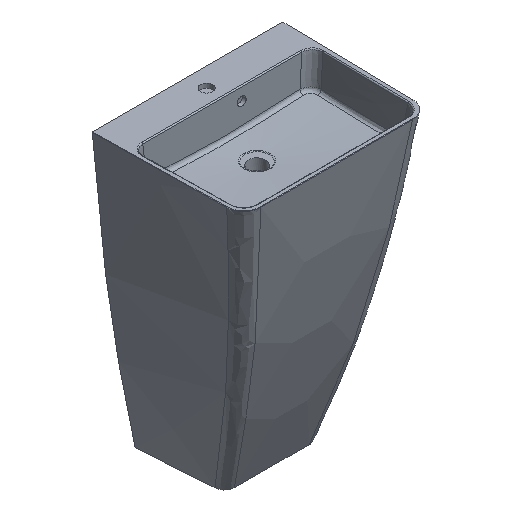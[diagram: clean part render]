
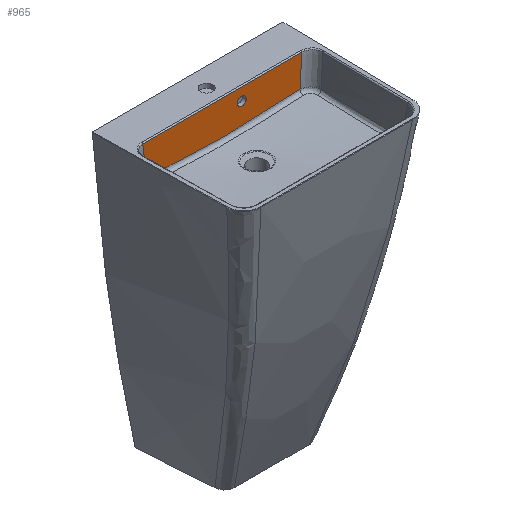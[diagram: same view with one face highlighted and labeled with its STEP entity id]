
A CAD part, isometric view. The second image highlights one B-rep face of the part: STEP entity #965.
In plain terms, the highlighted planar face has unit normal (0, -0.999, 0.035).
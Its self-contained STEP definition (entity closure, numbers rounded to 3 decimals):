
#15=FACE_BOUND('',#255,.T.);
#35=B_SPLINE_CURVE_WITH_KNOTS('',3,(#1633,#1634,#1635,#1636,#1637,#1638,
#1639,#1640,#1641,#1642,#1643,#1644,#1645,#1646,#1647,#1648,#1649,#1650,
#1651),.UNSPECIFIED.,.F.,.F.,(4,3,3,3,3,3,4),(0.,0.002,0.035,
0.099,0.229,0.488,1.),
 .UNSPECIFIED.);
#107=B_SPLINE_CURVE_WITH_KNOTS('',3,(#5554,#5555,#5556,#5557,#5558,#5559,
#5560,#5561,#5562,#5563,#5564,#5565,#5566,#5567,#5568,#5569,#5570,#5571,
#5572,#5573,#5574,#5575,#5576,#5577,#5578,#5579,#5580,#5581,#5582,#5583,
#5584,#5585,#5586,#5587,#5588,#5589,#5590),.UNSPECIFIED.,.F.,.F.,(4,3,3,
3,3,3,3,3,3,3,3,3,4),(0.,0.125,0.25,0.313,0.375,
0.438,0.5,0.563,0.625,0.688,0.75,0.875,
1.),.UNSPECIFIED.);
#108=B_SPLINE_CURVE_WITH_KNOTS('',3,(#5592,#5593,#5594,#5595,#5596,#5597,
#5598,#5599,#5600,#5601,#5602,#5603,#5604,#5605,#5606,#5607,#5608,#5609,
#5610),.UNSPECIFIED.,.F.,.F.,(4,3,3,3,3,3,4),(0.,0.512,0.771,
0.901,0.965,0.998,1.),.UNSPECIFIED.);
#164=PLANE('',#1050);
#195=FACE_OUTER_BOUND('',#254,.T.);
#254=EDGE_LOOP('',(#742,#743,#744,#745));
#255=EDGE_LOOP('',(#746,#747));
#328=LINE('',#5611,#340);
#340=VECTOR('',#1148,458.753);
#343=ELLIPSE('',#1017,12.508,12.5);
#344=ELLIPSE('',#1018,12.508,12.5);
#346=VERTEX_POINT('',#1185);
#347=VERTEX_POINT('',#1186);
#360=VERTEX_POINT('',#1327);
#364=VERTEX_POINT('',#1559);
#434=VERTEX_POINT('',#5553);
#435=VERTEX_POINT('',#5591);
#439=EDGE_CURVE('',#346,#347,#343,.T.);
#440=EDGE_CURVE('',#347,#346,#344,.T.);
#462=EDGE_CURVE('',#360,#364,#35,.T.);
#552=EDGE_CURVE('',#364,#434,#107,.T.);
#553=EDGE_CURVE('',#434,#435,#108,.T.);
#554=EDGE_CURVE('',#435,#360,#328,.T.);
#742=ORIENTED_EDGE('',*,*,#552,.T.);
#743=ORIENTED_EDGE('',*,*,#553,.T.);
#744=ORIENTED_EDGE('',*,*,#554,.T.);
#745=ORIENTED_EDGE('',*,*,#462,.T.);
#746=ORIENTED_EDGE('',*,*,#439,.T.);
#747=ORIENTED_EDGE('',*,*,#440,.T.);
#965=ADVANCED_FACE('',(#195,#15),#164,.T.);
#1017=AXIS2_PLACEMENT_3D('',#1187,#1071,#1072);
#1018=AXIS2_PLACEMENT_3D('',#1188,#1073,#1074);
#1050=AXIS2_PLACEMENT_3D('',#5552,#1146,#1147);
#1071=DIRECTION('center_axis',(0.,0.999,-0.035));
#1072=DIRECTION('ref_axis',(0.,-0.035,-0.999));
#1073=DIRECTION('center_axis',(0.,0.999,-0.035));
#1074=DIRECTION('ref_axis',(0.,-0.035,-0.999));
#1146=DIRECTION('center_axis',(0.,-0.999,0.035));
#1147=DIRECTION('ref_axis',(1.,0.,0.));
#1148=DIRECTION('',(-1.,0.,0.));
#1185=CARTESIAN_POINT('',(55.,-100.851,825.624));
#1186=CARTESIAN_POINT('',(42.5,-101.288,813.124));
#1187=CARTESIAN_POINT('Origin',(55.,-101.288,813.124));
#1188=CARTESIAN_POINT('Origin',(55.,-101.288,813.124));
#1327=CARTESIAN_POINT('',(-229.377,-100.101,847.105));
#1559=CARTESIAN_POINT('',(-220.825,-103.136,760.199));
#1633=CARTESIAN_POINT('Ctrl Pts',(-229.377,-100.101,847.105));
#1634=CARTESIAN_POINT('Ctrl Pts',(-229.371,-100.103,847.041));
#1635=CARTESIAN_POINT('Ctrl Pts',(-229.365,-100.106,846.977));
#1636=CARTESIAN_POINT('Ctrl Pts',(-229.359,-100.108,846.914));
#1637=CARTESIAN_POINT('Ctrl Pts',(-229.272,-100.141,845.975));
#1638=CARTESIAN_POINT('Ctrl Pts',(-229.185,-100.173,845.036));
#1639=CARTESIAN_POINT('Ctrl Pts',(-229.098,-100.206,844.098));
#1640=CARTESIAN_POINT('Ctrl Pts',(-228.924,-100.272,842.22));
#1641=CARTESIAN_POINT('Ctrl Pts',(-228.75,-100.337,840.343));
#1642=CARTESIAN_POINT('Ctrl Pts',(-228.575,-100.403,838.466));
#1643=CARTESIAN_POINT('Ctrl Pts',(-228.224,-100.534,834.711));
#1644=CARTESIAN_POINT('Ctrl Pts',(-227.87,-100.665,830.957));
#1645=CARTESIAN_POINT('Ctrl Pts',(-227.514,-100.796,827.203));
#1646=CARTESIAN_POINT('Ctrl Pts',(-226.8,-101.058,819.695));
#1647=CARTESIAN_POINT('Ctrl Pts',(-226.075,-101.32,812.188));
#1648=CARTESIAN_POINT('Ctrl Pts',(-225.338,-101.583,804.683));
#1649=CARTESIAN_POINT('Ctrl Pts',(-223.881,-102.1,789.85));
#1650=CARTESIAN_POINT('Ctrl Pts',(-222.377,-102.618,775.022));
#1651=CARTESIAN_POINT('Ctrl Pts',(-220.825,-103.136,760.199));
#5552=CARTESIAN_POINT('Origin',(-261.737,-100.,850.));
#5553=CARTESIAN_POINT('',(220.825,-103.136,760.199));
#5554=CARTESIAN_POINT('Ctrl Pts',(-220.825,-103.136,760.199));
#5555=CARTESIAN_POINT('Ctrl Pts',(-202.431,-103.167,759.301));
#5556=CARTESIAN_POINT('Ctrl Pts',(-184.038,-103.198,758.417));
#5557=CARTESIAN_POINT('Ctrl Pts',(-165.643,-103.228,757.562));
#5558=CARTESIAN_POINT('Ctrl Pts',(-147.248,-103.258,756.708));
#5559=CARTESIAN_POINT('Ctrl Pts',(-128.852,-103.287,755.88));
#5560=CARTESIAN_POINT('Ctrl Pts',(-110.453,-103.313,755.121));
#5561=CARTESIAN_POINT('Ctrl Pts',(-101.254,-103.327,754.741));
#5562=CARTESIAN_POINT('Ctrl Pts',(-92.054,-103.339,754.379));
#5563=CARTESIAN_POINT('Ctrl Pts',(-82.854,-103.351,754.046));
#5564=CARTESIAN_POINT('Ctrl Pts',(-73.653,-103.362,753.712));
#5565=CARTESIAN_POINT('Ctrl Pts',(-64.451,-103.373,753.407));
#5566=CARTESIAN_POINT('Ctrl Pts',(-55.248,-103.382,753.147));
#5567=CARTESIAN_POINT('Ctrl Pts',(-46.044,-103.391,752.887));
#5568=CARTESIAN_POINT('Ctrl Pts',(-36.839,-103.399,752.673));
#5569=CARTESIAN_POINT('Ctrl Pts',(-27.631,-103.404,752.526));
#5570=CARTESIAN_POINT('Ctrl Pts',(-18.424,-103.409,752.379));
#5571=CARTESIAN_POINT('Ctrl Pts',(-9.214,-103.412,752.301));
#5572=CARTESIAN_POINT('Ctrl Pts',(-0.001,-103.412,
752.301));
#5573=CARTESIAN_POINT('Ctrl Pts',(9.211,-103.412,752.301));
#5574=CARTESIAN_POINT('Ctrl Pts',(18.422,-103.409,752.379));
#5575=CARTESIAN_POINT('Ctrl Pts',(27.629,-103.404,752.526));
#5576=CARTESIAN_POINT('Ctrl Pts',(36.837,-103.399,752.673));
#5577=CARTESIAN_POINT('Ctrl Pts',(46.042,-103.391,752.887));
#5578=CARTESIAN_POINT('Ctrl Pts',(55.246,-103.382,753.147));
#5579=CARTESIAN_POINT('Ctrl Pts',(64.449,-103.373,753.407));
#5580=CARTESIAN_POINT('Ctrl Pts',(73.651,-103.362,753.712));
#5581=CARTESIAN_POINT('Ctrl Pts',(82.852,-103.351,754.045));
#5582=CARTESIAN_POINT('Ctrl Pts',(92.053,-103.339,754.379));
#5583=CARTESIAN_POINT('Ctrl Pts',(101.253,-103.327,754.741));
#5584=CARTESIAN_POINT('Ctrl Pts',(110.452,-103.313,755.121));
#5585=CARTESIAN_POINT('Ctrl Pts',(128.851,-103.287,755.88));
#5586=CARTESIAN_POINT('Ctrl Pts',(147.247,-103.258,756.708));
#5587=CARTESIAN_POINT('Ctrl Pts',(165.642,-103.228,757.562));
#5588=CARTESIAN_POINT('Ctrl Pts',(184.037,-103.198,758.417));
#5589=CARTESIAN_POINT('Ctrl Pts',(202.431,-103.167,759.301));
#5590=CARTESIAN_POINT('Ctrl Pts',(220.825,-103.136,760.199));
#5591=CARTESIAN_POINT('',(229.377,-100.101,847.105));
#5592=CARTESIAN_POINT('Ctrl Pts',(220.825,-103.136,760.199));
#5593=CARTESIAN_POINT('Ctrl Pts',(222.377,-102.618,775.023));
#5594=CARTESIAN_POINT('Ctrl Pts',(223.881,-102.1,789.852));
#5595=CARTESIAN_POINT('Ctrl Pts',(225.338,-101.582,804.686));
#5596=CARTESIAN_POINT('Ctrl Pts',(226.075,-101.32,812.192));
#5597=CARTESIAN_POINT('Ctrl Pts',(226.801,-101.058,819.699));
#5598=CARTESIAN_POINT('Ctrl Pts',(227.514,-100.796,827.207));
#5599=CARTESIAN_POINT('Ctrl Pts',(227.871,-100.665,830.962));
#5600=CARTESIAN_POINT('Ctrl Pts',(228.224,-100.534,834.716));
#5601=CARTESIAN_POINT('Ctrl Pts',(228.575,-100.403,838.471));
#5602=CARTESIAN_POINT('Ctrl Pts',(228.75,-100.337,840.348));
#5603=CARTESIAN_POINT('Ctrl Pts',(228.925,-100.271,842.226));
#5604=CARTESIAN_POINT('Ctrl Pts',(229.099,-100.206,844.103));
#5605=CARTESIAN_POINT('Ctrl Pts',(229.186,-100.173,845.042));
#5606=CARTESIAN_POINT('Ctrl Pts',(229.273,-100.14,845.981));
#5607=CARTESIAN_POINT('Ctrl Pts',(229.359,-100.108,846.919));
#5608=CARTESIAN_POINT('Ctrl Pts',(229.365,-100.105,846.981));
#5609=CARTESIAN_POINT('Ctrl Pts',(229.371,-100.103,847.043));
#5610=CARTESIAN_POINT('Ctrl Pts',(229.377,-100.101,847.105));
#5611=CARTESIAN_POINT('',(229.377,-100.101,847.105));
